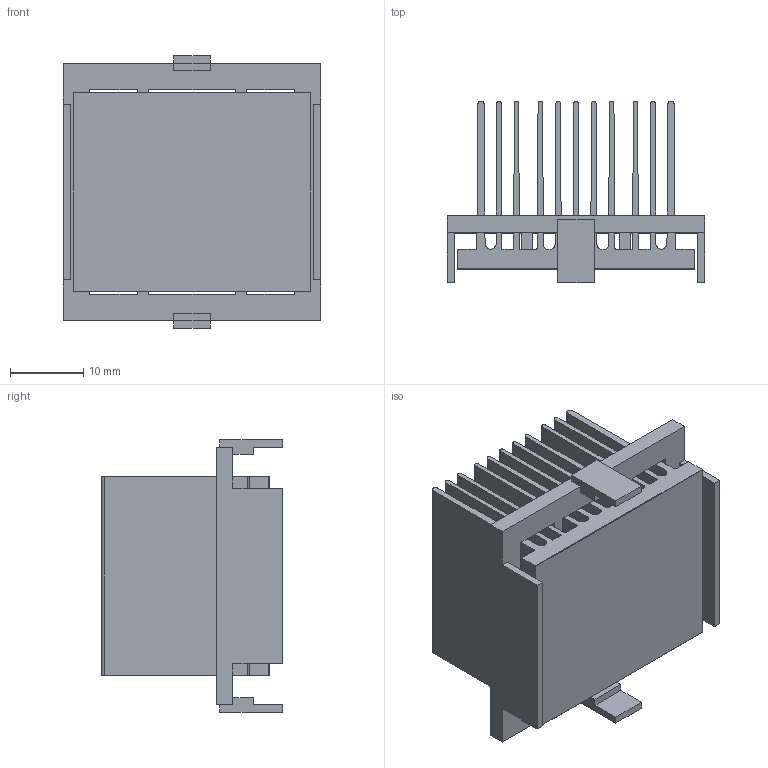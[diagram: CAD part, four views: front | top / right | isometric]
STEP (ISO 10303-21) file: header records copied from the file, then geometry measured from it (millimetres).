
FILE_DESCRIPTION (( 'STEP AP214' ), '1' );
FILE_NAME ('INH33001-23-2.6BU.STEP', '2023-02-17T18:15:43', ( '' ), ( '' ), 'SwSTEP 2.0', 'SolidWorks 2020', '' );
FILE_SCHEMA (( 'AUTOMOTIVE_DESIGN' ));
Length unit declared in the file: millimetre
Products named in the file (1): INH33001-23-2.6BU
Bounding box: 35.2 x 24.76 x 37.2 mm (x, y, z)
Volume: 8634.4 mm3; surface area: 18637.7 mm2
Topology: 3 solids, 3 shells, 130 faces, 372 edges, 248 vertices
Faces by surface type: plane 101, cylinder 29
Entity records: 5700 total; most frequent: CARTESIAN_POINT 751, ORIENTED_EDGE 744, DIRECTION 692, EDGE_CURVE 372, VECTOR 314, LINE 314, VERTEX_POINT 248, AXIS2_PLACEMENT_3D 189
